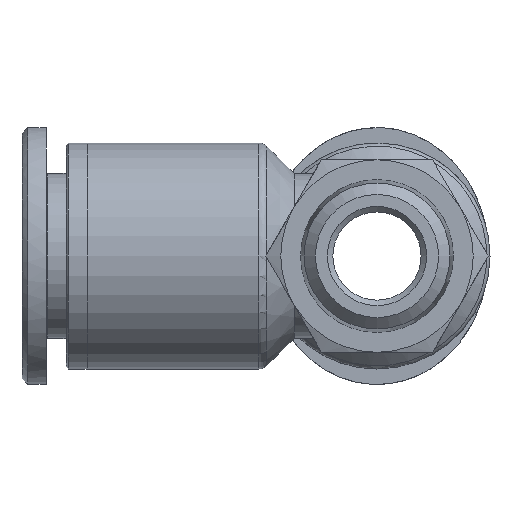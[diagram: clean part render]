
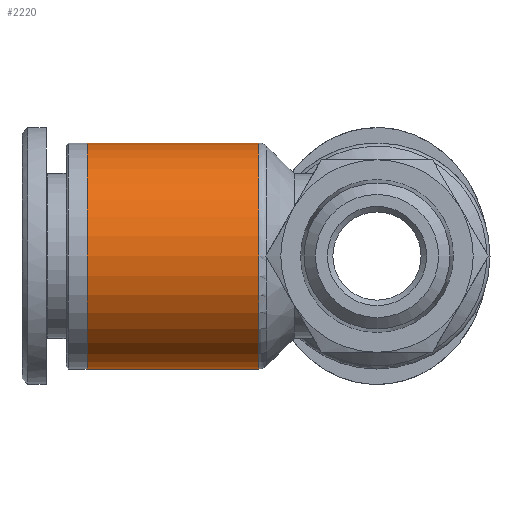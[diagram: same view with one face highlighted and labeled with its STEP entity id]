
A CAD part, front view. The second image highlights one B-rep face of the part: STEP entity #2220.
In plain terms, the highlighted cylindrical face has radius 10.25 mm (diameter 20.5 mm), a full revolution.
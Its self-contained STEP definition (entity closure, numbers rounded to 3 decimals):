
#1982=CARTESIAN_POINT('',(15.591,10.25,0.0));
#1983=VERTEX_POINT('',#1982);
#1984=CARTESIAN_POINT('',(15.591,0.,0.0));
#1985=DIRECTION('',(1.0,0.0,0.0));
#1986=DIRECTION('',(0.0,-1.0,0.0));
#1987=AXIS2_PLACEMENT_3D('',#1984,#1985,#1986);
#1988=CIRCLE('',#1987,10.25);
#1989=EDGE_CURVE('',#1983,#1983,#1988,.T.);
#2201=CARTESIAN_POINT('',(8.,0.,0.0));
#2202=DIRECTION('',(1.0,0.,0.0));
#2203=DIRECTION('',(0.0,1.0,0.0));
#2204=AXIS2_PLACEMENT_3D('',#2201,#2202,#2203);
#2205=CYLINDRICAL_SURFACE('',#2204,10.25);
#2206=CARTESIAN_POINT('',(0.0,10.25,0.0));
#2207=VERTEX_POINT('',#2206);
#2208=CARTESIAN_POINT('',(0.,0.,0.0));
#2209=DIRECTION('',(1.0,0.0,0.0));
#2210=DIRECTION('',(0.0,1.0,0.0));
#2211=AXIS2_PLACEMENT_3D('',#2208,#2209,#2210);
#2212=CIRCLE('',#2211,10.25);
#2213=EDGE_CURVE('',#2207,#2207,#2212,.T.);
#2214=ORIENTED_EDGE('',*,*,#2213,.T.);
#2215=EDGE_LOOP('',(#2214));
#2216=FACE_OUTER_BOUND('',#2215,.T.);
#2217=ORIENTED_EDGE('',*,*,#1989,.F.);
#2218=EDGE_LOOP('',(#2217));
#2219=FACE_BOUND('',#2218,.T.);
#2220=ADVANCED_FACE('',(#2216,#2219),#2205,.T.);
